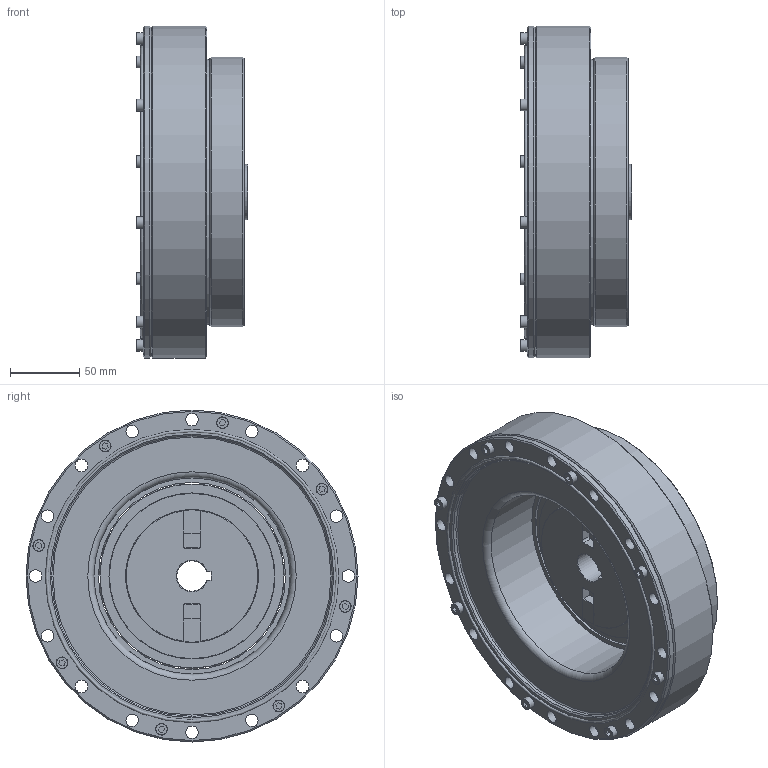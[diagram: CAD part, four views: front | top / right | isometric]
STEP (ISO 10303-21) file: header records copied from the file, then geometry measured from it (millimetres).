
FILE_DESCRIPTION (( 'STEP AP214' ), '1' );
FILE_NAME ('FHG-58-XXX-SO.STEP', '2024-11-14T09:06:02', ( '微软用户' ), ( '微软中国' ), 'SwSTEP 2.0', 'SolidWorks 2016', '' );
FILE_SCHEMA (( 'AUTOMOTIVE_DESIGN' ));
Length unit declared in the file: millimetre
Products named in the file (1): FHG-58-XXX-SO
Bounding box: 80.5 x 240 x 240 mm (x, y, z)
Volume: 1700227.3 mm3; surface area: 585438.9 mm2
Topology: 56 solids, 56 shells, 766 faces, 1848 edges, 1196 vertices
Faces by surface type: plane 339, cylinder 248, cone 109, torus 43, sphere 23, bspline 4
Full cylindrical faces by diameter (mm): 2.5 x2, 4.2 x8, 5 x14, 5.5 x8, 6 x6, 6.6 x6, 8.5 x20, 9 x32, 10 x6, 11 x18, 37.5 x1, 40 x3, 41 x3, 60 x2, 96 x2, 103.71 x1, 111.07 x2, 113 x1, 120 x1, 133 x1, 135.24 x2, 142.32 x2, 144.866 x1, 145.69 x1, 148.534 x1, 150 x1, 156 x2, 157.6 x2, 163 x2, 177.6 x1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
Entity records: 31762 total; most frequent: CARTESIAN_POINT 6332, DIRECTION 3544, ORIENTED_EDGE 2794, AXIS2_PLACEMENT_3D 1484, EDGE_CURVE 1397, EDGE_LOOP 1234, VERTEX_POINT 1065, FACE_OUTER_BOUND 951
